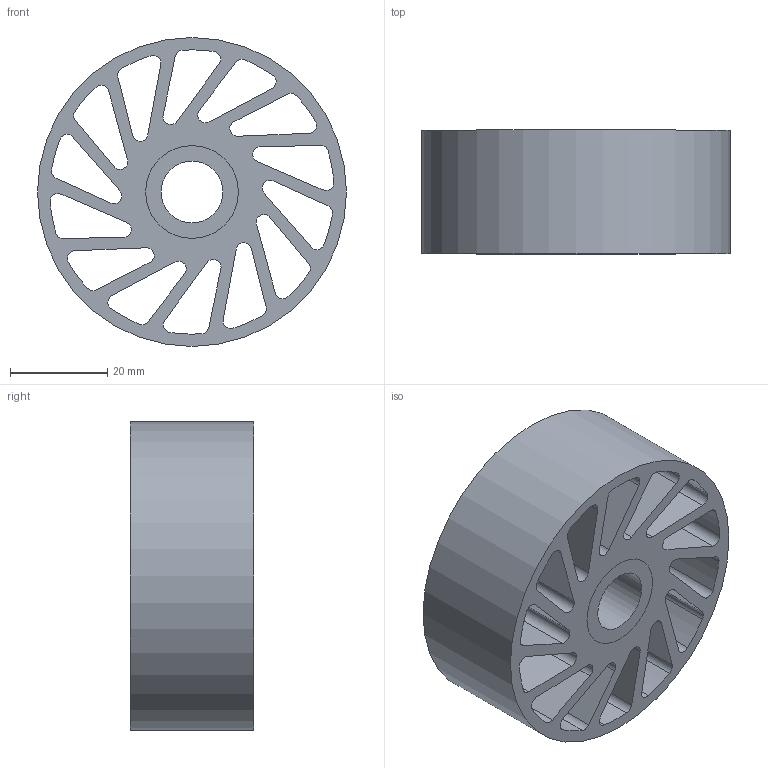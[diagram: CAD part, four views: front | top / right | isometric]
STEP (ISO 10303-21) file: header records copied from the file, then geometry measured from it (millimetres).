
FILE_DESCRIPTION(/* description */ (''),/* implementation_level */ '2;1');
FILE_NAME(/* name */ 'C:\Users\Owner\Desktop\Meridian Stuff\Oilite\NCWOB-320-XXX.stp',/* time_stamp */ '2023-05-22T16:28:47-05:00',/* author */ ('ASG'),/* organization */ ('Meridian Laboratory '),/* preprocessor_version */ 'ST-DEVELOPER v19',/* originating_system */ 'Autodesk Inventor 2023',/* authorisation */ '');
FILE_SCHEMA (('AUTOMOTIVE_DESIGN { 1 0 10303 214 3 1 1 }'));
Length unit declared in the file: inch
Products named in the file (1): NCWOB-300-XXX
Bounding box: 63.5 x 25.4 x 63.5 mm (x, y, z)
Volume: 41867.4 mm3; surface area: 27796 mm2
Topology: 2 solids, 2 shells, 92 faces, 264 edges, 176 vertices
Faces by surface type: cylinder 60, plane 32
Full cylindrical faces by diameter (mm): 12.738 x1, 19.05 x2, 63.5 x1
Entity records: 3285 total; most frequent: DIRECTION 570, CARTESIAN_POINT 533, ORIENTED_EDGE 528, EDGE_CURVE 264, AXIS2_PLACEMENT_3D 213, VERTEX_POINT 176, LINE 144, VECTOR 144
